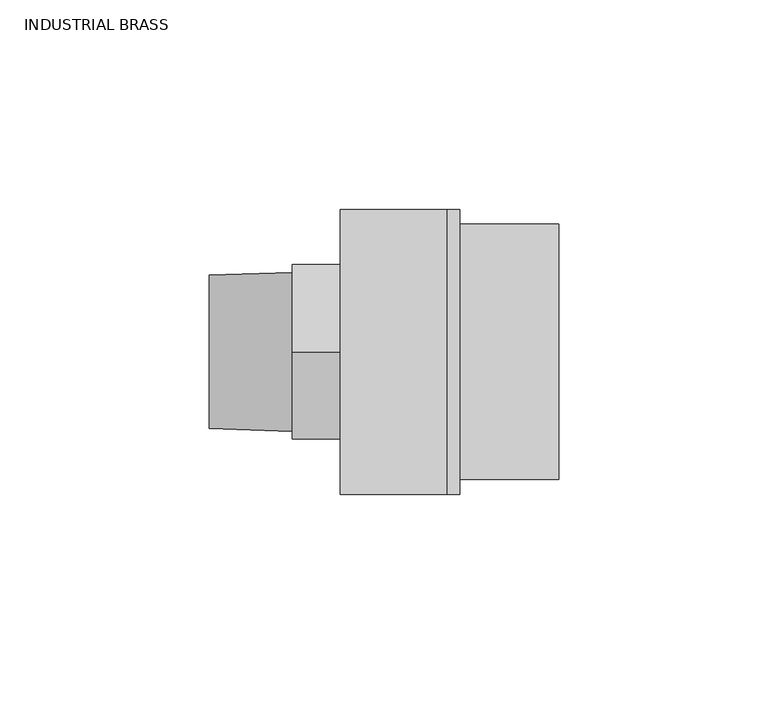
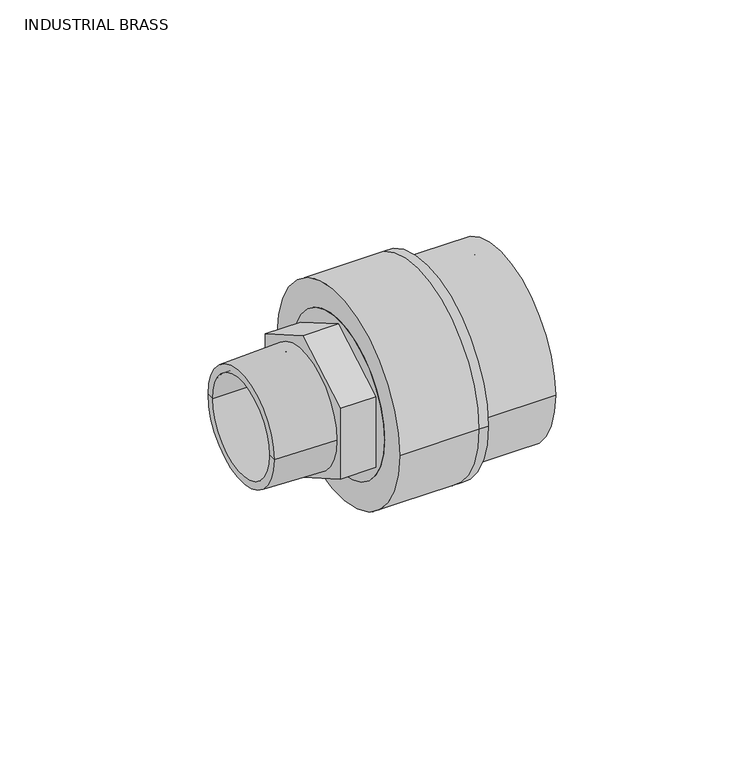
"""IFC4 building model written with IfcOpenShell, lengths in millimetres: valve geometry, Aquatherm - Transition Piece - M HEX : INDUSTRIAL BRASS."""

from ifc_helpers import new_model, si_unit, frame, origin, place, context, project, spatial, polyline, circle_curve, source, transform, mapped, element, save
from ifc_brep_helpers import plane_surface, cylinder_surface, revolved_surface, advanced_brep


def industrial_brass_1355e61c(model_context):
    return source(origin(), model_context, "Body", "AdvancedBrep", [
        advanced_brep(
        [(25.4, -25.4, 0.0), (25.4, 25.4, 0.0), (25.4, -15.875, 0.0), (25.4, 15.875, 0.0), (0.0, -25.4, 0.0), (0.0, 25.4, 0.0), (0.0, 0.0, -24.0501028), (0.0, 20.828, -12.0250514), (0.0, 20.828, 12.0250514), (0.0, 0.0, 24.0501028), (0.0, -20.828, 12.0250514), (0.0, -20.828, -12.0250514), (0.0, -15.875, 0.0), (0.0, 15.875, 0.0), (-11.43, 0.0, -24.0501028), (-11.43, -20.828, -12.0250514), (-11.43, -20.828, 12.0250514), (-11.43, 0.0, 24.0501028), (-11.43, 20.828, 12.0250514), (-11.43, 20.828, -12.0250514), (-11.43, -18.9526355, 0.0), (-11.43, 18.9526355, 0.0), (-11.43, -15.875, 0.0), (-11.43, 15.875, 0.0), (-31.242, 15.875, 0.0), (-31.242, -15.875, 0.0), (-31.242, 18.3536145, 0.0), (-31.242, -18.3536145, 0.0)],
        [
            (0, 1, circle_curve(frame((25.4, 0.0, 0.0), z_axis=(1.0, 0.0, 0.0), x_axis=(0.0, 1.0, 0.0)), 25.4)),
            (1, 0, circle_curve(frame((25.4, 0.0, 0.0), z_axis=(1.0, 0.0, 0.0), x_axis=(0.0, 1.0, 0.0)), 25.4)),
            (2, 3, circle_curve(frame((25.4, 0.0, 0.0), z_axis=(-1.0, 0.0, 0.0), x_axis=(0.0, 1.0, 0.0)), 15.875)),
            (3, 2, circle_curve(frame((25.4, 0.0, 0.0), z_axis=(-1.0, 0.0, 0.0), x_axis=(0.0, 1.0, 0.0)), 15.875)),
            (4, 5, circle_curve(frame((0.0, 0.0, 0.0), z_axis=(-1.0, 0.0, 0.0), x_axis=(0.0, 1.0, 0.0)), 25.4)),
            (5, 4, circle_curve(frame((0.0, 0.0, 0.0), z_axis=(-1.0, 0.0, 0.0), x_axis=(0.0, 1.0, 0.0)), 25.4)),
            (6, 7),
            (7, 8),
            (8, 9),
            (9, 10),
            (10, 11),
            (11, 6),
            (0, 4),
            (5, 1),
            (2, 12),
            (12, 13, circle_curve(frame((0.0, 0.0, 0.0), z_axis=(-1.0, 0.0, 0.0), x_axis=(0.0, 1.0, 0.0)), 15.875)),
            (13, 3),
            (13, 12, circle_curve(frame((0.0, 0.0, 0.0), z_axis=(-1.0, 0.0, 0.0), x_axis=(0.0, 1.0, 0.0)), 15.875)),
            (14, 15),
            (15, 16),
            (16, 17),
            (17, 18),
            (18, 19),
            (19, 14),
            (20, 21, circle_curve(frame((-11.43, 0.0, 0.0), z_axis=(1.0, 0.0, 0.0), x_axis=(0.0, 1.0, 0.0)), 18.9526355)),
            (21, 20, circle_curve(frame((-11.43, 0.0, 0.0), z_axis=(1.0, 0.0, 0.0), x_axis=(0.0, 1.0, 0.0)), 18.9526355)),
            (19, 7),
            (6, 14),
            (18, 8),
            (17, 9),
            (16, 10),
            (15, 11),
            (12, 22),
            (22, 23, circle_curve(frame((-11.43, 0.0, 0.0), z_axis=(-1.0, 0.0, 0.0), x_axis=(0.0, 1.0, 0.0)), 15.875)),
            (23, 13),
            (23, 22, circle_curve(frame((-11.43, 0.0, 0.0), z_axis=(-1.0, 0.0, 0.0), x_axis=(0.0, 1.0, 0.0)), 15.875)),
            (23, 24),
            (24, 25, circle_curve(frame((-31.242, 0.0, 0.0), z_axis=(-1.0, 0.0, 0.0), x_axis=(0.0, 1.0, 0.0)), 15.875)),
            (25, 22),
            (25, 24, circle_curve(frame((-31.242, 0.0, 0.0), z_axis=(-1.0, 0.0, 0.0), x_axis=(0.0, 1.0, 0.0)), 15.875)),
            (24, 26),
            (26, 27, circle_curve(frame((-31.242, 0.0, 0.0), z_axis=(-1.0, 0.0, 0.0), x_axis=(0.0, 1.0, 0.0)), 18.3536145)),
            (27, 25),
            (27, 26, circle_curve(frame((-31.242, 0.0, 0.0), z_axis=(-1.0, 0.0, 0.0), x_axis=(0.0, 1.0, 0.0)), 18.3536145)),
            (26, 21),
            (20, 27),
        ],
        [
            plane_surface(frame((25.4, 25.4, 0.0), z_axis=(1.0, 0.0, 0.0), x_axis=(0.0, 0.0, 1.0))),
            plane_surface(frame((0.0, 25.4, 0.0), z_axis=(-1.0, 0.0, 0.0), x_axis=(0.0, 0.0, -1.0))),
            cylinder_surface(frame((0.0, 0.0, 0.0), z_axis=(1.0, 0.0, 0.0), x_axis=(0.0, 1.0, 0.0)), 25.4),
            revolved_surface(polyline([(0.0, 15.875, 0.0), (25.4, 15.875, 0.0)]), (17.447219, 0.0, 0.0), (-1.0, 0.0, 0.0)),
            plane_surface(frame((-11.43, 0.0, -24.0501028), z_axis=(-1.0, 0.0, 0.0), x_axis=(0.0, -0.8660254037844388, -0.49999999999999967))),
            plane_surface(frame((0.0, 0.0, -24.0501028), z_axis=(0.0, 0.49999999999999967, -0.8660254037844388), x_axis=(-1.0, 0.0, 0.0))),
            plane_surface(frame((0.0, 20.828, -12.0250514), z_axis=(0.0, 1.0, 0.0), x_axis=(-1.0, 0.0, 0.0))),
            plane_surface(frame((0.0, 20.828, 12.0250514), z_axis=(0.0, 0.49999999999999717, 0.8660254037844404), x_axis=(-1.0, 0.0, 0.0))),
            plane_surface(frame((0.0, 0.0, 24.0501028), z_axis=(0.0, -0.5000000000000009, 0.8660254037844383), x_axis=(-1.0, 0.0, 0.0))),
            plane_surface(frame((0.0, -20.828, 12.0250514), z_axis=(0.0, -1.0, 0.0), x_axis=(-1.0, 0.0, 0.0))),
            plane_surface(frame((0.0, -20.828, -12.0250514), z_axis=(0.0, -0.49999999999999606, -0.8660254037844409), x_axis=(-1.0, 0.0, 0.0))),
            revolved_surface(polyline([(-11.43, 15.875, 0.0), (0.0, 15.875, 0.0)]), (0.0, 0.0, 0.0), (-1.0, 0.0, 0.0)),
            revolved_surface(polyline([(-31.242000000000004, 15.875, 0.0), (-11.43, 15.875, 0.0)]), (-66.1150688, 0.0, 0.0), (-1.0, 0.0, 0.0)),
            plane_surface(frame((-31.242, 0.0, 0.0), z_axis=(-1.0, 0.0, 0.0), x_axis=(0.0, 1.0, 0.0))),
            revolved_surface(polyline([(-11.43, 18.9526355, 0.0), (-31.242, 18.3536145, 0.0)]), (-66.1150688, 0.0, 0.0), (-1.0, 0.0, 0.0)),
        ],
        [
            (0, [[1, 2], [3, 4]]),
            (1, [[5, 6], [7, 8, 9, 10, 11, 12]]),
            (2, [[-1, 13, -6, 14]]),
            (2, [[-2, -14, -5, -13]]),
            (3, [[-3, 15, 16, 17]]),
            (3, [[-4, -17, 18, -15]]),
            (4, [[19, 20, 21, 22, 23, 24], [25, 26]]),
            (5, [[-24, 27, -7, 28]]),
            (6, [[-23, 29, -8, -27]]),
            (7, [[-22, 30, -9, -29]]),
            (8, [[-21, 31, -10, -30]]),
            (9, [[-20, 32, -11, -31]]),
            (10, [[-19, -28, -12, -32]]),
            (11, [[33, 34, 35, -16]]),
            (11, [[-33, -18, -35, 36]]),
            (12, [[37, 38, 39, -36]]),
            (12, [[-37, -34, -39, 40]]),
            (13, [[-38, 41, 42, 43]]),
            (13, [[-40, -43, 44, -41]]),
            (14, [[-42, 45, -25, 46]]),
            (14, [[-44, -46, -26, -45]]),
        ],
    ),
        advanced_brep(
        [(0.0, -34.036, 0.0), (0.0, 34.036, 0.0), (0.0, -25.4, 0.0), (0.0, 25.4, 0.0), (25.4, 34.036, 0.0), (25.4, -34.036, 0.0), (25.4, 25.4, 0.0), (25.4, -25.4, 0.0), (28.448, -34.036, 0.0), (28.448, 34.036, 0.0), (28.448, 30.48, 0.0), (28.448, -30.48, 0.0), (28.448, 25.019, 0.0), (28.448, -25.019, 0.0), (28.448, -19.05, 0.0), (28.448, 19.05, 0.0), (25.4, -19.05, 0.0), (25.4, 19.05, 0.0), (52.07, -30.48, 0.0), (52.07, 30.48, 0.0), (52.07, -25.019, 0.0), (52.07, 25.019, 0.0)],
        [
            (0, 1, circle_curve(frame((0.0, 0.0, 0.0), z_axis=(-1.0, 0.0, 0.0), x_axis=(0.0, 1.0, 0.0)), 34.036)),
            (1, 0, circle_curve(frame((0.0, 0.0, 0.0), z_axis=(-1.0, 0.0, 0.0), x_axis=(0.0, 1.0, 0.0)), 34.036)),
            (2, 3, circle_curve(frame((0.0, 0.0, 0.0), z_axis=(1.0, 0.0, 0.0), x_axis=(0.0, 1.0, 0.0)), 25.4)),
            (3, 2, circle_curve(frame((0.0, 0.0, 0.0), z_axis=(1.0, 0.0, 0.0), x_axis=(0.0, 1.0, 0.0)), 25.4)),
            (1, 4),
            (4, 5, circle_curve(frame((25.4, 0.0, 0.0), z_axis=(-1.0, 0.0, 0.0), x_axis=(0.0, 1.0, 0.0)), 34.036)),
            (5, 0),
            (5, 4, circle_curve(frame((25.4, 0.0, 0.0), z_axis=(-1.0, 0.0, 0.0), x_axis=(0.0, 1.0, 0.0)), 34.036)),
            (3, 6),
            (6, 7, circle_curve(frame((25.4, 0.0, 0.0), z_axis=(1.0, 0.0, 0.0), x_axis=(0.0, 1.0, 0.0)), 25.4)),
            (7, 2),
            (7, 6, circle_curve(frame((25.4, 0.0, 0.0), z_axis=(1.0, 0.0, 0.0), x_axis=(0.0, 1.0, 0.0)), 25.4)),
            (8, 9, circle_curve(frame((28.448, 0.0, 0.0), z_axis=(1.0, 0.0, 0.0), x_axis=(0.0, 1.0, 0.0)), 34.036)),
            (9, 8, circle_curve(frame((28.448, 0.0, 0.0), z_axis=(1.0, 0.0, 0.0), x_axis=(0.0, 1.0, 0.0)), 34.036)),
            (10, 11, circle_curve(frame((28.448, 0.0, 0.0), z_axis=(-1.0, 0.0, 0.0), x_axis=(0.0, 1.0, 0.0)), 30.48)),
            (11, 10, circle_curve(frame((28.448, 0.0, 0.0), z_axis=(-1.0, 0.0, 0.0), x_axis=(0.0, 1.0, 0.0)), 30.48)),
            (12, 13, circle_curve(frame((28.448, 0.0, 0.0), z_axis=(1.0, 0.0, 0.0), x_axis=(0.0, 1.0, 0.0)), 25.019)),
            (13, 12, circle_curve(frame((28.448, 0.0, 0.0), z_axis=(1.0, 0.0, 0.0), x_axis=(0.0, 1.0, 0.0)), 25.019)),
            (14, 15, circle_curve(frame((28.448, 0.0, 0.0), z_axis=(-1.0, 0.0, 0.0), x_axis=(0.0, 1.0, 0.0)), 19.05)),
            (15, 14, circle_curve(frame((28.448, 0.0, 0.0), z_axis=(-1.0, 0.0, 0.0), x_axis=(0.0, 1.0, 0.0)), 19.05)),
            (16, 17, circle_curve(frame((25.4, 0.0, 0.0), z_axis=(1.0, 0.0, 0.0), x_axis=(0.0, 1.0, 0.0)), 19.05)),
            (17, 16, circle_curve(frame((25.4, 0.0, 0.0), z_axis=(1.0, 0.0, 0.0), x_axis=(0.0, 1.0, 0.0)), 19.05)),
            (8, 5),
            (4, 9),
            (14, 16),
            (17, 15),
            (18, 19, circle_curve(frame((52.07, 0.0, 0.0), z_axis=(1.0, 0.0, 0.0), x_axis=(0.0, 1.0, 0.0)), 30.48)),
            (19, 18, circle_curve(frame((52.07, 0.0, 0.0), z_axis=(1.0, 0.0, 0.0), x_axis=(0.0, 1.0, 0.0)), 30.48)),
            (20, 21, circle_curve(frame((52.07, 0.0, 0.0), z_axis=(-1.0, 0.0, 0.0), x_axis=(0.0, 1.0, 0.0)), 25.019)),
            (21, 20, circle_curve(frame((52.07, 0.0, 0.0), z_axis=(-1.0, 0.0, 0.0), x_axis=(0.0, 1.0, 0.0)), 25.019)),
            (18, 11),
            (10, 19),
            (20, 13),
            (12, 21),
        ],
        [
            plane_surface(frame((0.0, 34.036, 0.0), z_axis=(-1.0, 0.0, 0.0), x_axis=(0.0, 0.0, -1.0))),
            cylinder_surface(frame((0.0, 0.0, 0.0), z_axis=(1.0, 0.0, 0.0), x_axis=(0.0, 1.0, 0.0)), 34.036),
            revolved_surface(polyline([(0.0, 25.4, 0.0), (25.4, 25.4, 0.0)]), (-38.1, 0.0, 0.0), (-1.0, 0.0, 0.0)),
            plane_surface(frame((28.448, 34.036, 0.0), z_axis=(1.0, 0.0, 0.0), x_axis=(0.0, 0.0, 1.0))),
            plane_surface(frame((25.4, 34.036, 0.0), z_axis=(-1.0, 0.0, 0.0), x_axis=(0.0, 0.0, -1.0))),
            cylinder_surface(frame((25.4, 0.0, 0.0), z_axis=(1.0, 0.0, 0.0), x_axis=(0.0, 1.0, 0.0)), 34.036),
            revolved_surface(polyline([(25.400000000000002, 19.05, 0.0), (28.448000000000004, 19.05, 0.0)]), (-19.05, 0.0, 0.0), (-1.0, 0.0, 0.0)),
            plane_surface(frame((52.07, 30.48, 0.0), z_axis=(1.0, 0.0, 0.0), x_axis=(0.0, 0.0, 1.0))),
            cylinder_surface(frame((28.448, 0.0, 0.0), z_axis=(1.0, 0.0, 0.0), x_axis=(0.0, 1.0, 0.0)), 30.48),
            revolved_surface(polyline([(28.448, 25.019, 0.0), (52.07, 25.019, 0.0)]), (0.0, 0.0, 0.0), (-1.0, 0.0, 0.0)),
        ],
        [
            (0, [[1, 2], [3, 4]]),
            (1, [[-2, 5, 6, 7]]),
            (1, [[-1, -7, 8, -5]]),
            (2, [[-4, 9, 10, 11]]),
            (2, [[-3, -11, 12, -9]]),
            (3, [[13, 14], [15, 16]]),
            (3, [[17, 18], [19, 20]]),
            (4, [[-10, -12], [21, 22]]),
            (5, [[-13, 23, -6, 24]]),
            (5, [[-14, -24, -8, -23]]),
            (6, [[-19, 25, -22, 26]]),
            (6, [[-20, -26, -21, -25]]),
            (7, [[27, 28], [29, 30]]),
            (8, [[-27, 31, -15, 32]]),
            (8, [[-28, -32, -16, -31]]),
            (9, [[-29, 33, -17, 34]]),
            (9, [[-30, -34, -18, -33]]),
        ],
    ),
    ])


if __name__ == "__main__":
    model = new_model("IFC4")
    model_context = context("Model", 3, world=origin())
    ifc_project = project(units=[si_unit("LENGTHUNIT", "METRE", prefix="MILLI")], contexts=[model_context])
    site = spatial("IfcSite", under=ifc_project)
    building = spatial("IfcBuilding", under=site)
    placement = place(None, origin())
    industrial_brass_shape = industrial_brass_1355e61c(model_context)
    element("IfcValve", 1, ObjectType="Aquatherm - Transition Piece - M HEX : INDUSTRIAL BRASS", at=placement, inside=building, context=model_context, shape_type="MappedRepresentation", body=[
        mapped(industrial_brass_shape, transform((0.0, 0.0, 0.0), x_axis=(1.0, 0.0, 0.0), y_axis=(0.0, 1.0, 0.0), z_axis=(0.0, 0.0, 1.0))),
    ])
    save(model, "model.ifc")
